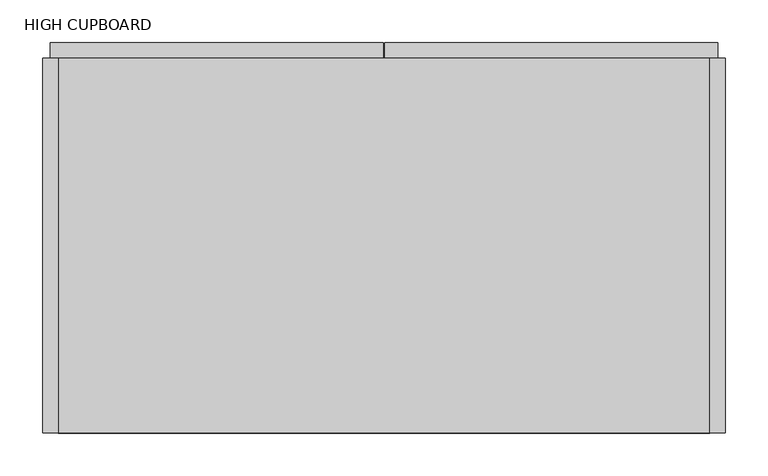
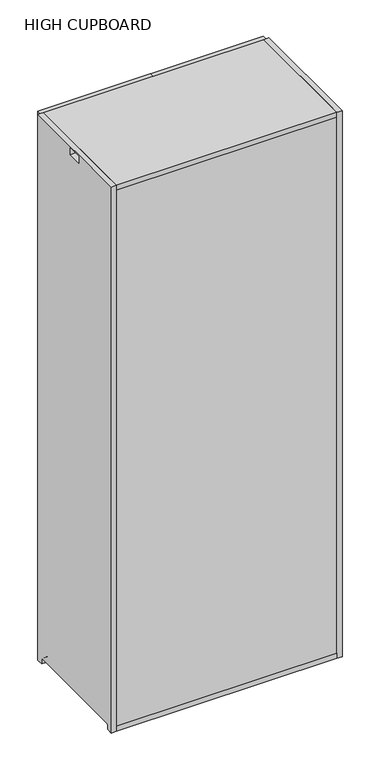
"""IFC4 building model written with IfcOpenShell, lengths in millimetres: furniture geometry, HIGH CUPBOARD : 800mmW_High_Cupboad-TypeA."""

from ifc_helpers import new_model, si_unit, point, frame, frame_2d, origin, place, context, project, spatial, polyline, circle_curve, trimmed, segment, composite_curve, outline, extrude, faceted_brep, source, transform, mapped, element, save
from ifc_brep_helpers import plane_surface, revolved_surface, advanced_brep


def high_cupboard_f48e1593(model_context):
    return source(origin(), model_context, "Body", "SolidModel", [
        extrude(outline(composite_curve([segment(polyline([(220.0, 2000.0), (220.0, 0.0), (198.0, 0.0), (198.0, 17.0)]), True, "CONTINUOUS"), segment(trimmed(circle_curve(frame_2d((194.0, 17.0)), 4.0), [point((198.0, 17.0))], [point((194.0, 21.0))], True, "CARTESIAN"), True, "CONTINUOUS"), segment(polyline([(194.0, 21.0), (-194.0, 21.0)]), True, "CONTINUOUS"), segment(trimmed(circle_curve(frame_2d((-194.0, 17.0)), 4.0), [point((-194.0, 21.0))], [point((-198.0, 17.0))], True, "CARTESIAN"), True, "CONTINUOUS"), segment(polyline([(-198.0, 17.0), (-198.0, 0.0), (-220.0, 0.0), (-220.0, 2000.0), (220.0, 2000.0)]), True, "CONTINUOUS")], self_intersect=False), holes=[polyline([(26.0, 1995.0), (-26.0, 1995.0), (-26.0, 1970.0), (26.0, 1970.0), (26.0, 1995.0)])]), frame((-400.0, 0.0, 0.0), z_axis=(1.0, 0.0, 0.0), x_axis=(0.0, 1.0, 0.0)), (0.0, 0.0, 1.0), 18.0),
        advanced_brep(
        [(382.0, -220.0, 18.0), (382.0, 220.0, 18.0), (-382.0, 220.0, 18.0), (-382.0, 197.8729833, 18.0), (-376.1019215, 197.8729833, 18.0), (-376.1019215, -197.8729833, 18.0), (-382.0, -197.8729833, 18.0), (-382.0, -220.0, 18.0), (382.0, -220.0, 0.0), (-382.0, -220.0, 0.0), (-382.0, -198.0, 0.0), (-376.1019215, -198.0, 0.0), (-376.1019215, 198.0, 0.0), (-382.0, 198.0, 0.0), (-382.0, 220.0, 0.0), (382.0, 220.0, 0.0), (-382.0, -198.0, 17.0), (-382.0, 198.0, 17.0), (-376.1019215, -198.0, 17.0), (-376.1019215, 198.0, 17.0)],
        [
            (0, 1),
            (1, 2),
            (2, 3),
            (3, 4),
            (4, 5),
            (5, 6),
            (6, 7),
            (7, 0),
            (8, 9),
            (9, 10),
            (10, 11),
            (11, 12),
            (12, 13),
            (13, 14),
            (14, 15),
            (15, 8),
            (7, 9),
            (8, 0),
            (6, 16, circle_curve(frame((-382.0, -194.0, 17.0), z_axis=(1.0, 0.0, 0.0), x_axis=(0.0, -1.0, 0.0)), 4.0)),
            (16, 10),
            (13, 17),
            (17, 3, circle_curve(frame((-382.0, 194.0, 17.0), z_axis=(1.0, 0.0, 0.0), x_axis=(0.0, -1.0, 0.0)), 4.0)),
            (2, 14),
            (1, 15),
            (18, 5, circle_curve(frame((-376.1019215, -194.0, 17.0), z_axis=(-1.0, 0.0, 0.0), x_axis=(0.0, -1.0, 0.0)), 4.0)),
            (4, 19, circle_curve(frame((-376.1019215, 194.0, 17.0), z_axis=(-1.0, 0.0, 0.0), x_axis=(0.0, -1.0, 0.0)), 4.0)),
            (19, 12),
            (11, 18),
            (17, 19),
            (16, 18),
        ],
        [
            plane_surface(frame((-382.0, -220.0, 18.0), z_axis=(0.0, 0.0, 1.0), x_axis=(-1.0, 0.0, 0.0))),
            plane_surface(frame((-382.0, -220.0, 0.0), z_axis=(0.0, 0.0, -1.0), x_axis=(1.0, 0.0, 0.0))),
            plane_surface(frame((382.0, -220.0, 18.0), z_axis=(0.0, -1.0, 0.0), x_axis=(0.0, 0.0, -1.0))),
            plane_surface(frame((-382.0, -220.0, 18.0), z_axis=(-1.0, 0.0, 0.0), x_axis=(0.0, 0.0, -1.0))),
            plane_surface(frame((-382.0, 220.0, 18.0), z_axis=(0.0, 1.0, 0.0), x_axis=(0.0, 0.0, -1.0))),
            plane_surface(frame((382.0, 220.0, 18.0), z_axis=(1.0, 0.0, 0.0), x_axis=(0.0, 0.0, -1.0))),
            plane_surface(frame((-376.1019215, 190.0, 17.0), z_axis=(-1.0, 0.0, 0.0), x_axis=(0.0, 0.0, 1.0))),
            revolved_surface(polyline([(-376.1019215, 190.0, 17.0), (-382.0, 190.0, 17.0)]), (-406.0458228, 194.0, 17.0), (1.0, 0.0, 0.0)),
            plane_surface(frame((-376.1019215, 198.0, 17.0), z_axis=(0.0, -1.0, 0.0), x_axis=(-1.0, 0.0, 0.0))),
            plane_surface(frame((-376.1019215, -198.0, 0.0), z_axis=(0.0, 1.0, 0.0), x_axis=(-1.0, 0.0, 0.0))),
            revolved_surface(polyline([(-376.1019215, -198.0, 17.0), (-382.0, -198.0, 17.0)]), (-406.0458228, -194.0, 17.0), (1.0, 0.0, 0.0)),
        ],
        [
            (0, [[1, 2, 3, 4, 5, 6, 7, 8]]),
            (1, [[9, 10, 11, 12, 13, 14, 15, 16]]),
            (2, [[17, -9, 18, -8]]),
            (3, [[-7, 19, 20, -10, -17]]),
            (3, [[-14, 21, 22, -3, 23]]),
            (4, [[24, -15, -23, -2]]),
            (5, [[-18, -16, -24, -1]]),
            (6, [[25, -5, 26, 27, -12, 28]]),
            (7, [[-4, -22, 29, -26]]),
            (8, [[-29, -21, -13, -27]]),
            (9, [[-11, -20, 30, -28]]),
            (10, [[-30, -19, -6, -25]]),
        ],
    ),
        extrude(outline(composite_curve([segment(polyline([(220.0, 2000.0), (220.0, 0.0), (198.0, 0.0), (198.0, 17.0)]), True, "CONTINUOUS"), segment(trimmed(circle_curve(frame_2d((194.0, 17.0)), 4.0), [point((198.0, 17.0))], [point((194.0, 21.0))], True, "CARTESIAN"), True, "CONTINUOUS"), segment(polyline([(194.0, 21.0), (-194.0, 21.0)]), True, "CONTINUOUS"), segment(trimmed(circle_curve(frame_2d((-194.0, 17.0)), 4.0), [point((-194.0, 21.0))], [point((-198.0, 17.0))], True, "CARTESIAN"), True, "CONTINUOUS"), segment(polyline([(-198.0, 17.0), (-198.0, 0.0), (-220.0, 0.0), (-220.0, 2000.0), (220.0, 2000.0)]), True, "CONTINUOUS")], self_intersect=False), holes=[polyline([(26.0, 1995.0), (-26.0, 1995.0), (-26.0, 1970.0), (26.0, 1970.0), (26.0, 1995.0)])]), frame((382.0, 0.0, 0.0), z_axis=(1.0, 0.0, 0.0), x_axis=(0.0, 1.0, 0.0)), (0.0, 0.0, 1.0), 18.0),
        extrude(outline(polyline([(382.0, -220.0), (-382.0, -220.0), (-382.0, -202.0), (382.0, -202.0), (382.0, -220.0)])), frame((0.0, 0.0, 18.0), z_axis=(0.0, 0.0, 1.0), x_axis=(1.0, 0.0, 0.0)), (0.0, 0.0, 1.0), 1964.0),
        extrude(outline(polyline([(382.0, -202.0), (-382.0, -202.0), (-382.0, 220.0), (382.0, 220.0), (382.0, -202.0)])), frame((0.0, 0.0, 398.5), z_axis=(0.0, 0.0, 1.0), x_axis=(1.0, 0.0, 0.0)), (0.0, 0.0, 1.0), 18.0),
        extrude(outline(polyline([(382.0, -202.0), (-382.0, -202.0), (-382.0, 220.0), (382.0, 220.0), (382.0, -202.0)])), frame((0.0, 0.0, 793.5), z_axis=(0.0, 0.0, 1.0), x_axis=(1.0, 0.0, 0.0)), (0.0, 0.0, 1.0), 18.0),
        extrude(outline(polyline([(382.0, -202.0), (-382.0, -202.0), (-382.0, 220.0), (382.0, 220.0), (382.0, -202.0)])), frame((0.0, 0.0, 1188.5), z_axis=(0.0, 0.0, 1.0), x_axis=(1.0, 0.0, 0.0)), (0.0, 0.0, 1.0), 18.0),
        extrude(outline(polyline([(382.0, -202.0), (-382.0, -202.0), (-382.0, 220.0), (382.0, 220.0), (382.0, -202.0)])), frame((0.0, 0.0, 1583.5), z_axis=(0.0, 0.0, 1.0), x_axis=(1.0, 0.0, 0.0)), (0.0, 0.0, 1.0), 18.0),
        extrude(outline(polyline([(9.0, -202.0), (-9.0, -202.0), (-9.0, 220.0), (9.0, 220.0), (9.0, -202.0)])), frame((0.0, 0.0, 18.0), z_axis=(0.0, 0.0, 1.0), x_axis=(1.0, 0.0, 0.0)), (0.0, 0.0, 1.0), 1964.0),
        extrude(outline(polyline([(391.0, 220.0), (1.0, 220.0), (1.0, 238.0), (391.0, 238.0), (391.0, 220.0)])), frame((0.0, 0.0, 2.0), z_axis=(0.0, 0.0, 1.0), x_axis=(1.0, 0.0, 0.0)), (0.0, 0.0, 1.0), 799.5),
        extrude(outline(polyline([(391.0, 220.0), (1.0, 220.0), (1.0, 238.0), (391.0, 238.0), (391.0, 220.0)])), frame((0.0, 0.0, 803.5), z_axis=(0.0, 0.0, 1.0), x_axis=(1.0, 0.0, 0.0)), (0.0, 0.0, 1.0), 1194.5),
        extrude(outline(polyline([(-391.0, 220.0), (-391.0, 238.0), (-1.0, 238.0), (-1.0, 220.0), (-391.0, 220.0)])), frame((0.0, 0.0, 2.0), z_axis=(0.0, 0.0, 1.0), x_axis=(1.0, 0.0, 0.0)), (0.0, 0.0, 1.0), 799.5),
        extrude(outline(polyline([(-391.0, 220.0), (-391.0, 238.0), (-1.0, 238.0), (-1.0, 220.0), (-391.0, 220.0)])), frame((0.0, 0.0, 803.5), z_axis=(0.0, 0.0, 1.0), x_axis=(1.0, 0.0, 0.0)), (0.0, 0.0, 1.0), 1194.5),
        faceted_brep([(382.0, -220.0, 2000.0), (382.0, 220.0, 2000.0), (-382.0, 220.0, 2000.0), (-382.0, -220.0, 2000.0), (382.0, 220.0, 1982.0), (382.0, 26.0, 1982.0), (375.9541772, 26.0, 1982.0), (375.9541772, -26.0, 1982.0), (382.0, -26.0, 1982.0), (382.0, -220.0, 1982.0), (-382.0, -220.0, 1982.0), (-382.0, -26.0, 1982.0), (-376.1019215, -26.0, 1982.0), (-376.1019215, 26.0, 1982.0), (-382.0, 26.0, 1982.0), (-382.0, 220.0, 1982.0), (-382.0, 26.0, 1995.0), (-382.0, -26.0, 1995.0), (382.0, -26.0, 1995.0), (382.0, 26.0, 1995.0), (375.9541772, -26.0, 1995.0), (375.9541772, 26.0, 1995.0), (-376.1019215, 26.0, 1995.0), (-376.1019215, -26.0, 1995.0)], [[[0, 1, 2, 3]], [[4, 5, 6, 7, 8, 9, 10, 11, 12, 13, 14, 15]], [[3, 10, 9, 0]], [[2, 15, 14, 16, 17, 11, 10, 3]], [[1, 4, 15, 2]], [[0, 9, 8, 18, 19, 5, 4, 1]], [[20, 7, 6, 21]], [[6, 5, 19, 21]], [[20, 18, 8, 7]], [[21, 19, 18, 20]], [[22, 13, 12, 23]], [[22, 16, 14, 13]], [[12, 11, 17, 23]], [[23, 17, 16, 22]]]),
    ])


if __name__ == "__main__":
    model = new_model("IFC4")
    model_context = context("Model", 3, world=origin())
    ifc_project = project(units=[si_unit("LENGTHUNIT", "METRE", prefix="MILLI")], contexts=[model_context])
    site = spatial("IfcSite", under=ifc_project)
    building = spatial("IfcBuilding", under=site)
    placement = place(None, origin())
    high_cupboard_shape = high_cupboard_f48e1593(model_context)
    element("IfcFurniture", 1, ObjectType="HIGH CUPBOARD : 800mmW_High_Cupboad-TypeA", at=placement, inside=building, context=model_context, shape_type="MappedRepresentation", body=[
        mapped(high_cupboard_shape, transform((0.0, 0.0, 0.0), x_axis=(1.0, 0.0, 0.0), y_axis=(0.0, 1.0, 0.0), z_axis=(0.0, 0.0, 1.0))),
    ])
    save(model, "model.ifc")
